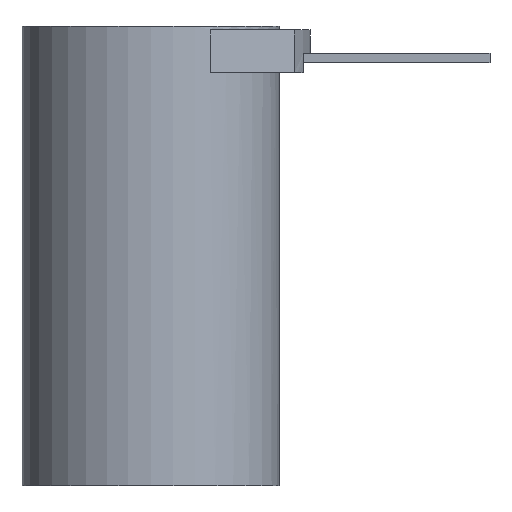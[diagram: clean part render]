
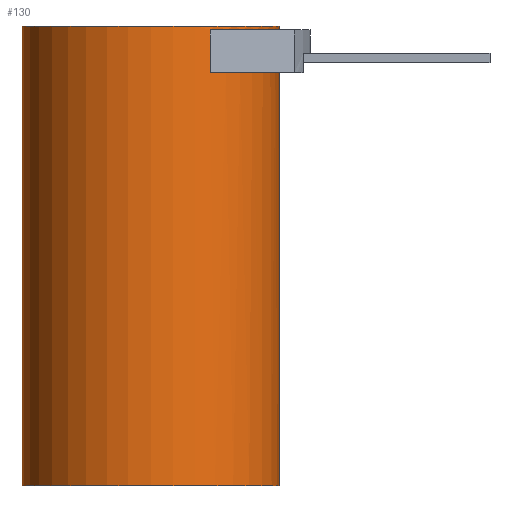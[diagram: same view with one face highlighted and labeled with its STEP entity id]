
A CAD part, front view. The second image highlights one B-rep face of the part: STEP entity #130.
In plain terms, the highlighted cylindrical face has radius 16.5 mm (diameter 33 mm), a partial arc.
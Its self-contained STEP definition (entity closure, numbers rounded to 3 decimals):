
#113=CYLINDRICAL_SURFACE('',#597,16.5);
#130=ADVANCED_FACE('',(#175),#113,.T.);
#175=FACE_OUTER_BOUND('',#198,.T.);
#198=EDGE_LOOP('',(#301,#302,#303,#304,#305,#306,#307,#308,#309,#310));
#224=CIRCLE('',#577,16.5);
#225=CIRCLE('',#580,16.5);
#230=CIRCLE('',#590,16.5);
#233=CIRCLE('',#595,16.5);
#234=CIRCLE('',#596,16.5);
#301=ORIENTED_EDGE('',*,*,#452,.F.);
#302=ORIENTED_EDGE('',*,*,#457,.F.);
#303=ORIENTED_EDGE('',*,*,#458,.T.);
#304=ORIENTED_EDGE('',*,*,#455,.T.);
#305=ORIENTED_EDGE('',*,*,#459,.F.);
#306=ORIENTED_EDGE('',*,*,#453,.F.);
#307=ORIENTED_EDGE('',*,*,#438,.F.);
#308=ORIENTED_EDGE('',*,*,#435,.F.);
#309=ORIENTED_EDGE('',*,*,#434,.F.);
#310=ORIENTED_EDGE('',*,*,#448,.F.);
#388=VERTEX_POINT('',#794);
#390=VERTEX_POINT('',#798);
#391=VERTEX_POINT('',#802);
#393=VERTEX_POINT('',#808);
#398=VERTEX_POINT('',#825);
#400=VERTEX_POINT('',#833);
#401=VERTEX_POINT('',#837);
#402=VERTEX_POINT('',#839);
#403=VERTEX_POINT('',#841);
#404=VERTEX_POINT('',#843);
#434=EDGE_CURVE('',#390,#388,#224,.T.);
#435=EDGE_CURVE('',#388,#391,#498,.T.);
#438=EDGE_CURVE('',#391,#393,#225,.T.);
#448=EDGE_CURVE('',#398,#390,#508,.T.);
#452=EDGE_CURVE('',#400,#398,#230,.T.);
#453=EDGE_CURVE('',#393,#401,#510,.T.);
#455=EDGE_CURVE('',#403,#402,#511,.T.);
#457=EDGE_CURVE('',#404,#400,#512,.T.);
#458=EDGE_CURVE('',#404,#403,#233,.T.);
#459=EDGE_CURVE('',#401,#402,#234,.T.);
#498=LINE('',#801,#537);
#508=LINE('',#827,#547);
#510=LINE('',#836,#549);
#511=LINE('',#840,#550);
#512=LINE('',#844,#551);
#537=VECTOR('',#647,1.);
#547=VECTOR('',#671,1.);
#549=VECTOR('',#685,1.);
#550=VECTOR('',#688,1.);
#551=VECTOR('',#691,1.);
#577=AXIS2_PLACEMENT_3D('',#799,#643,#644);
#580=AXIS2_PLACEMENT_3D('',#807,#652,#653);
#590=AXIS2_PLACEMENT_3D('',#834,#681,#682);
#595=AXIS2_PLACEMENT_3D('',#846,#694,#695);
#596=AXIS2_PLACEMENT_3D('',#847,#696,#697);
#597=AXIS2_PLACEMENT_3D('',#848,#698,#699);
#643=DIRECTION('',(0.,0.,1.));
#644=DIRECTION('',(-1.,0.,0.));
#647=DIRECTION('',(0.,0.,1.));
#652=DIRECTION('',(0.,0.,1.));
#653=DIRECTION('',(0.565,-0.825,0.));
#671=DIRECTION('',(0.,0.,-1.));
#681=DIRECTION('',(0.,0.,-1.));
#682=DIRECTION('',(-1.,0.,0.));
#685=DIRECTION('',(0.,0.,-1.));
#688=DIRECTION('',(0.,0.,-1.));
#691=DIRECTION('',(0.,0.,-1.));
#694=DIRECTION('',(0.,0.,-1.));
#695=DIRECTION('',(0.,1.,0.));
#696=DIRECTION('',(0.,0.,-1.));
#697=DIRECTION('',(0.,1.,0.));
#698=DIRECTION('',(0.,0.,-1.));
#699=DIRECTION('',(0.,-1.,0.));
#794=CARTESIAN_POINT('',(15.37,-6.,53.));
#798=CARTESIAN_POINT('',(7.633,-14.628,53.));
#799=CARTESIAN_POINT('',(0.,0.,53.));
#801=CARTESIAN_POINT('',(15.37,-6.,52.98));
#802=CARTESIAN_POINT('',(15.37,-6.,55.5));
#807=CARTESIAN_POINT('',(0.,0.,55.5));
#808=CARTESIAN_POINT('',(16.5,0.,55.5));
#825=CARTESIAN_POINT('',(7.633,-14.628,58.5));
#827=CARTESIAN_POINT('',(7.633,-14.628,59.02));
#833=CARTESIAN_POINT('',(16.5,0.,58.5));
#834=CARTESIAN_POINT('',(0.,0.,58.5));
#836=CARTESIAN_POINT('',(16.5,0.,0.));
#837=CARTESIAN_POINT('',(16.5,0.,0.));
#839=CARTESIAN_POINT('',(-16.5,0.,0.));
#840=CARTESIAN_POINT('',(-16.5,0.,0.));
#841=CARTESIAN_POINT('',(-16.5,0.,59.));
#843=CARTESIAN_POINT('',(16.5,0.,59.));
#844=CARTESIAN_POINT('',(16.5,0.,0.));
#846=CARTESIAN_POINT('',(0.,0.,59.));
#847=CARTESIAN_POINT('',(0.,0.,0.));
#848=CARTESIAN_POINT('',(0.,0.,59.));
